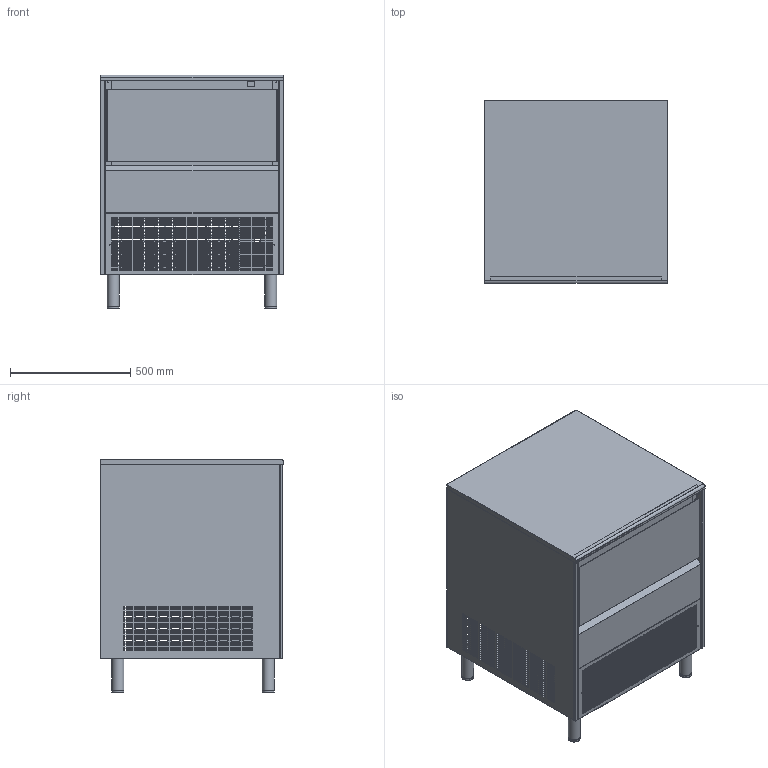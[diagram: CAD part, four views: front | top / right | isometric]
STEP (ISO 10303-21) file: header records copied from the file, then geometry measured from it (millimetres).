
FILE_DESCRIPTION(/* description */ ('Unknown'),/* implementation_level */ '2;1');
FILE_NAME(/* name */ 'ICE TECH FD-HD 140',/* time_stamp */ '2018-04-20T13:00:59+02:00',/* author */ ('Unknown'),/* organization */ ('Unknown'),/* preprocessor_version */ 'ST-DEVELOPER v16.7',/* originating_system */ 'DEX',/* authorisation */ $);
FILE_SCHEMA (('CONFIG_CONTROL_DESIGN'));
Products named in the file (17): SPIKA-130; SPIKA-NG-130+carroceria_oa_0; 32-1+6257_r01; 32-3+6261_R01; 32-10+V130_IZQ; 32-3+6260_R01; 32-44+8700; 32-5+6263; 32-6+6280; 32-11+6296_oa_1; 32-12+6290; 32-9+6284; 32-10+V130_DCH; 32-25+6301; 32-47+6282; 32-29; 7-144
Assembly tree (19 placements, depth 4):
  SPIKA-130
    SPIKA-NG-130+carroceria_oa_0
      32-1+6257_r01
      32-3+6261_R01
      32-10+V130_IZQ
      32-3+6260_R01
      32-44+8700
      32-5+6263
      32-6+6280
      32-11+6296_oa_1
        32-12+6290
      32-9+6284
      32-10+V130_DCH
      32-25+6301
      32-47+6282
      32-29
    7-144  x4
Bounding box: 762 x 762.2 x 973.4 mm (x, y, z)
Volume: 4432293.9 mm3; surface area: 8255643.7 mm2
Topology: 17 solids, 17 shells, 3855 faces, 11282 edges, 7536 vertices
Faces by surface type: plane 2793, cylinder 1031, torus 25, bspline 6
Full cylindrical faces by diameter (mm): 2.4 x21, 2.5 x21, 2.75 x5, 2.9 x20, 3.5 x20, 4 x9, 4.25 x60, 5 x9, 6 x25, 7 x12, 8 x4, 9 x2, 10 x4, 13 x2, 30 x1, 32.8 x4, 39 x4, 40 x4, 43 x4, 50 x8
Entity records: 129475 total; most frequent: CARTESIAN_POINT 23117, ORIENTED_EDGE 21786, DIRECTION 20389, EDGE_CURVE 10893, LINE 8713, VECTOR 8713, VERTEX_POINT 7411, EDGE_LOOP 6140
